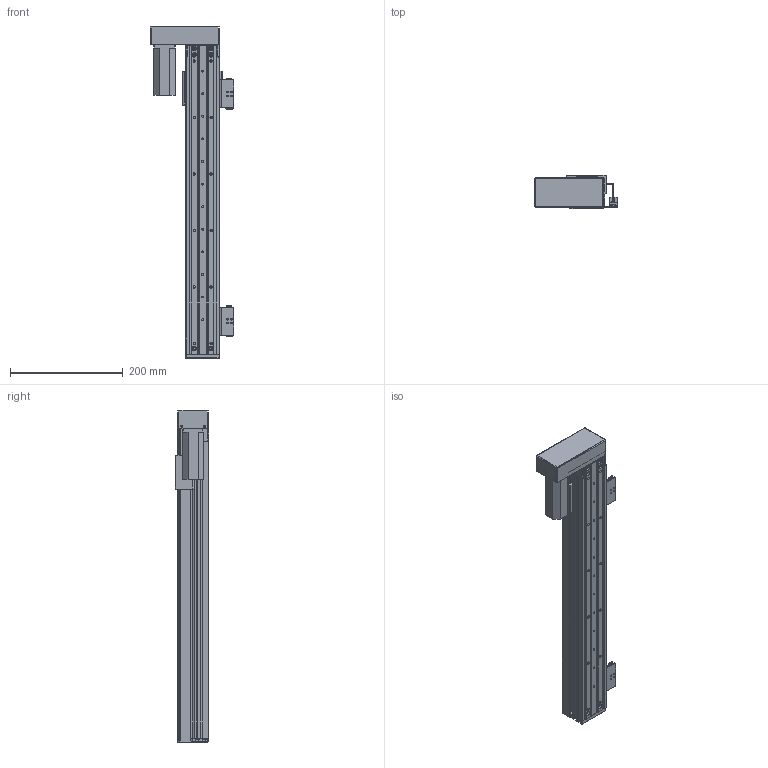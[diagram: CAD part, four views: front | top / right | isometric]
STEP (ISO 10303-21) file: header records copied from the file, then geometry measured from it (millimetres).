
FILE_DESCRIPTION (( 'STEP AP203' ), '1' );
FILE_NAME ('RY60FB-L1210-300-LK.SLDASM_400.step', '2021-02-23T01:00:52', ( '盈信电脑' ), ( '东莞市道滘镇水果街19号' ), 'SwSTEP 2.0', 'SolidWorks 2012', '' );
FILE_SCHEMA (( 'CONFIG_CONTROL_DESIGN' ));
Length unit declared in the file: millimetre
Products named in the file (14): 滅袉蝶18-10; RY60FB-臏賑輸; 侂狟100W; RY60FB-蛌殏奻裔-300-LK_400; RY60FB-蛌殏菁釱-300-LK_400; RY60FB-674嫖萇耀輸; RY60FB-L1210-300-LK.SLDASM_400; RY80俋离覜茼え; 覜茼ん674; RY60FB转折电机端支撑座; RY60FB-感应器674光电安装座; RY60FB-蛌殏萇儂欶; RY60FB-左右折电机安装板; RY60FB綴裔啣
Assembly tree (18 placements, depth 3):
  RY60FB-L1210-300-LK.SLDASM_400
    RY60FB-蛌殏菁釱-300-LK_400
    RY60FB-臏賑輸
    滅袉蝶18-10  x4
    RY60FB-蛌殏奻裔-300-LK_400
    侂狟100W
    RY60FB綴裔啣
    RY60FB转折电机端支撑座
    RY60FB-左右折电机安装板
    RY60FB-蛌殏萇儂欶
    RY60FB-674嫖萇耀輸  x2
      RY60FB-感应器674光电安装座
      覜茼ん674
    RY80俋离覜茼え
Bounding box: 147.75 x 58.5 x 588 mm (x, y, z)
Volume: 818947.1 mm3; surface area: 450519.2 mm2
Topology: 19 solids, 19 shells, 1157 faces, 3146 edges, 2006 vertices
Faces by surface type: plane 591, cylinder 461, cone 97, bspline 8
Entity records: 31198 total; most frequent: CARTESIAN_POINT 6102, DIRECTION 4948, ORIENTED_EDGE 4844, EDGE_CURVE 2422, AXIS2_PLACEMENT_3D 1726, VERTEX_POINT 1568, VECTOR 1496, LINE 1496
